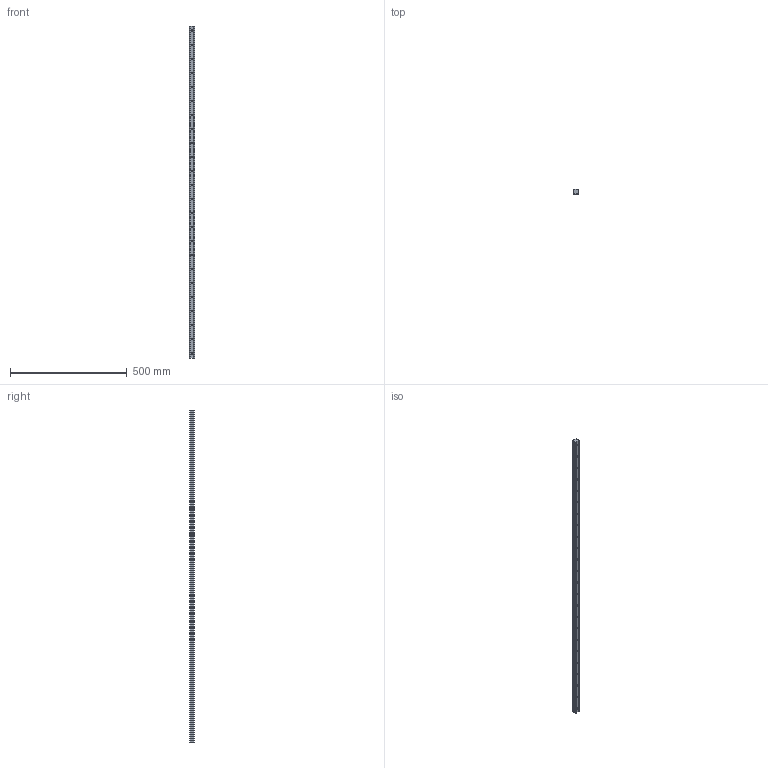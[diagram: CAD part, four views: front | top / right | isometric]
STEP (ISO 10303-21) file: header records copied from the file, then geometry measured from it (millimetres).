
FILE_DESCRIPTION (( 'STEP AP203' ), '1' );
FILE_NAME ('L1016.BRF25-1420.step', '2019-06-13T08:38:13', ( '' ), ( '' ), 'SwSTEP 2.0', 'SolidWorks 2017', '' );
FILE_SCHEMA (( 'CONFIG_CONTROL_DESIGN' ));
Length unit declared in the file: millimetre
Products named in the file (1): L1016.BRF25-1420
Bounding box: 23 x 19.2 x 1420 mm (x, y, z)
Volume: 542091.3 mm3; surface area: 131125.8 mm2
Topology: 1 solids, 1 shells, 194 faces, 456 edges, 264 vertices
Faces by surface type: cylinder 100, cone 48, plane 46
Entity records: 5317 total; most frequent: DIRECTION 998, CARTESIAN_POINT 867, ORIENTED_EDGE 816, EDGE_CURVE 408, AXIS2_PLACEMENT_3D 395, VERTEX_POINT 264, EDGE_LOOP 242, LINE 208
